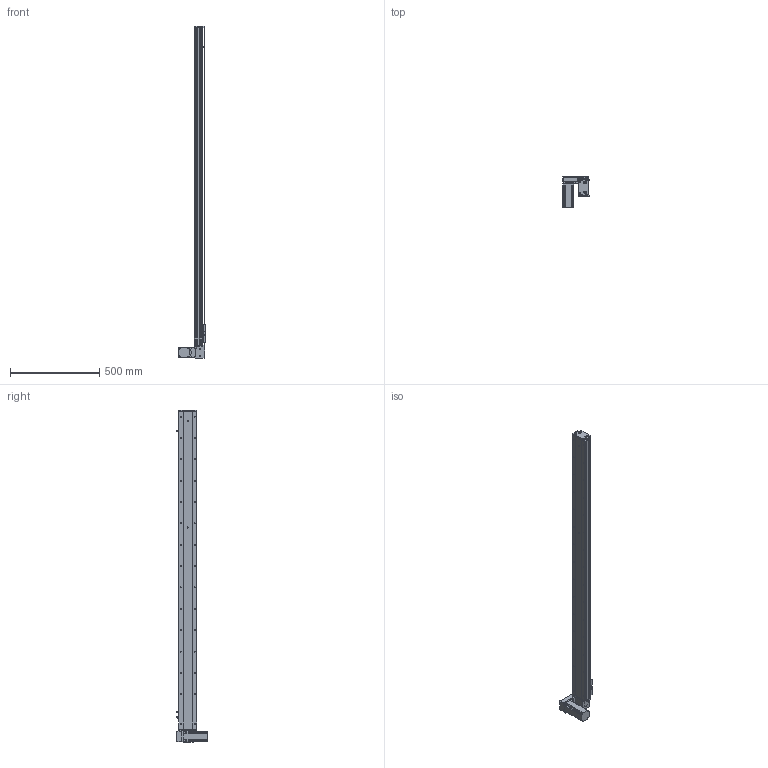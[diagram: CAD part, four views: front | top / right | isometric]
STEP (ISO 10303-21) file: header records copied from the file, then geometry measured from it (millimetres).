
FILE_DESCRIPTION (( 'STEP AP214' ), '1' );
FILE_NAME ('KSD100B-S1600-MLD-CM.STEP', '2019-08-31T07:11:33', ( '微软用户' ), ( '微软中国' ), 'SwSTEP 2.0', 'SolidWorks 2014', '' );
FILE_SCHEMA (( 'AUTOMOTIVE_DESIGN' ));
Length unit declared in the file: millimetre
Products named in the file (12): 覜茼え100遵圉猾敕; 100宽防尘板1600行程-同步带; 100宽马达安装板同步带左; 100宽同步带安装板半封闭; 100宽马达安装板同步带; 100遵傷啣肮祭湍; 100宽底板半封闭同步带1600行程; KSD100B-S1600-MLD-CM; 悵誘欶奻狟殏; 100宽马达安装板连板上下折丝杆同步带; 台达ECMA－C20604AS伺服电机; U倰嫖萇EEㄜSX672
Assembly tree (13 placements, depth 2):
  KSD100B-S1600-MLD-CM
    100宽底板半封闭同步带1600行程
    100遵傷啣肮祭湍
    100宽马达安装板同步带
    100宽同步带安装板半封闭
    100宽马达安装板同步带左
    100宽防尘板1600行程-同步带
    覜茼え100遵圉猾敕
    U倰嫖萇EEㄜSX672  x3
    台达ECMA－C20604AS伺服电机
    100宽马达安装板连板上下折丝杆同步带
    悵誘欶奻狟殏
Bounding box: 148 x 174.7 x 1865 mm (x, y, z)
Volume: 3927056.2 mm3; surface area: 1338216.6 mm2
Topology: 14 solids, 14 shells, 1639 faces, 4642 edges, 2927 vertices
Faces by surface type: cylinder 849, plane 611, cone 179
Entity records: 59831 total; most frequent: CARTESIAN_POINT 12630, DIRECTION 8098, ORIENTED_EDGE 7832, EDGE_CURVE 3916, AXIS2_PLACEMENT_3D 2981, VERTEX_POINT 2551, LINE 2136, VECTOR 2136
